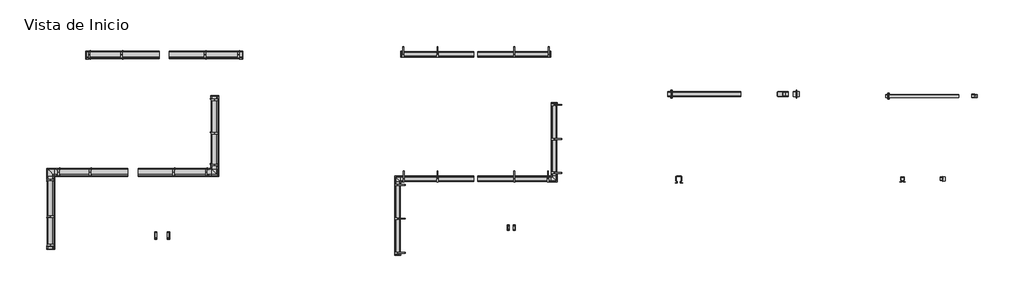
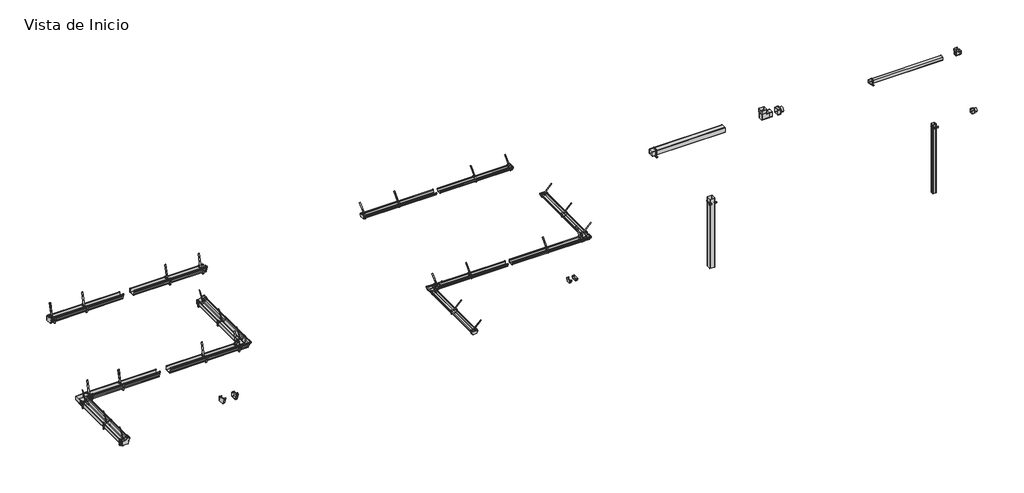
# One storey, incomplete: 96 pipe fittings.
"""IFC4 building model written with IfcOpenShell, lengths in millimetres."""

from ifc_helpers import new_model, si_unit, origin, place, context, project, spatial, transform, mapped, element, save
from components import var_52457260, var_4cc623fb, var_6d9a4e36, var_03249e51, var_4f1b463e, var_f23e036e, var_7115812f, var_41f675c7, var_76e6487b, var_775c7385, var_95f52222, var_f97e31ab, var_05ff5e77, var_66918e25, var_a2d437c5, var_36fa4123, var_11f69991, var_6b851b41, var_1a944b97, var_0d280a64, var_cdb6bf59, var_3a2b953e, var_3e40efbc, var_d3a71fb1, var_498e2f51, var_6dfbb502, var_9b596f50, var_332e4873

model = new_model("IFC4")

# Units and contexts
model_context = context("Model", 3, world=origin())
ifc_project = project(units=[si_unit("LENGTHUNIT", "METRE", prefix="MILLI")], contexts=[model_context])

# Site, building, storey
site = spatial("IfcSite", under=ifc_project)
building = spatial("IfcBuilding", under=site)
storey = spatial("IfcBuildingStorey", under=building, Name="Vista de Inicio", Elevation=0.0)

# Pipe fittings
placement = place(None, origin())
var_shape = var_52457260(model_context)
element("IfcPipeFitting", 1, ObjectType="PavcoWavin_UnionesDeTuberia_Canal Amazona_Tapa Izquierda Externa : Var.", at=placement, inside=storey, context=model_context, shape_type="MappedRepresentation", body=[
    mapped(var_shape, transform((-2478.4051425, 598.9276324, 0.0), x_axis=(0.0, 1.0, 0.0), y_axis=(-1.0, 0.0, 0.0), z_axis=(0.0, 0.0, 1.0))),
])
var_2_shape = var_4cc623fb(model_context)
element("IfcPipeFitting", 2, ObjectType="PavcoWavin_UnionesDeTuberia_Canal Amazona_Tapa Derecha Externa : Var.", at=placement, inside=storey, context=model_context, shape_type="MappedRepresentation", body=[
    mapped(var_2_shape, transform((889.7565373, 3648.9312367, 0.0), x_axis=(0.0, 1.0, 0.0), y_axis=(-1.0, 0.0, 0.0), z_axis=(0.0, 0.0, 1.0))),
])
var_3_shape = var_6d9a4e36(model_context)
element("IfcPipeFitting", 3, ObjectType="PavcoWavin_UnionesDeTuberia_ZCanal Amazona_Unión Esquina Interna_NoUsarUnion : Var.", at=placement, inside=storey, context=model_context, shape_type="MappedRepresentation", body=[
    mapped(var_3_shape, transform((-2478.2059963, 1979.9276324, -6.5234375), x_axis=(0.0, 1.0, 0.0), y_axis=(-1.0, 0.0, 0.0), z_axis=(0.0, 0.0, 1.0))),
])
var_4_shape = var_03249e51(model_context)
element("IfcPipeFitting", 4, ObjectType="PavcoWavin_UnionesDeTuberia_ZCanal Amazona_Soporte_NoUsarUnion : Var.", at=placement, inside=storey, context=model_context, shape_type="MappedRepresentation", body=[
    mapped(var_4_shape, transform((69.8595706, 2140.9301284, -18.59375), x_axis=(1.0, 0.0, 0.0), y_axis=(0.0, 1.0, 0.0), z_axis=(0.0, 0.0, 1.0))),
])
element("IfcPipeFitting", 5, ObjectType="PavcoWavin_UnionesDeTuberia_ZCanal Amazona_Soporte_NoUsarUnion : Var.", at=placement, inside=storey, context=model_context, shape_type="MappedRepresentation", body=[
    mapped(var_4_shape, transform((715.3718272, 4557.2576564, -18.59375), x_axis=(1.0, 0.0, 0.0), y_axis=(0.0, 1.0, 0.0), z_axis=(0.0, 0.0, 1.0))),
])
element("IfcPipeFitting", 6, ObjectType="PavcoWavin_UnionesDeTuberia_ZCanal Amazona_Soporte_NoUsarUnion : Var.", at=placement, inside=storey, context=model_context, shape_type="MappedRepresentation", body=[
    mapped(var_4_shape, transform((743.0595706, 2140.9301284, -18.59375), x_axis=(1.0, 0.0, 0.0), y_axis=(0.0, 1.0, 0.0), z_axis=(0.0, 0.0, 1.0))),
])
element("IfcPipeFitting", 7, ObjectType="PavcoWavin_UnionesDeTuberia_ZCanal Amazona_Soporte_NoUsarUnion : Var.", at=placement, inside=storey, context=model_context, shape_type="MappedRepresentation", body=[
    mapped(var_4_shape, transform((-998.6328859, 4557.2576564, -19.9609375), x_axis=(1.0, 0.0, 0.0), y_axis=(0.0, 1.0, 0.0), z_axis=(0.0, 0.0, 1.0))),
])
element("IfcPipeFitting", 8, ObjectType="PavcoWavin_UnionesDeTuberia_ZCanal Amazona_Soporte_NoUsarUnion : Var.", at=placement, inside=storey, context=model_context, shape_type="MappedRepresentation", body=[
    mapped(var_4_shape, transform((-1661.8328859, 4557.2576564, -19.9609375), x_axis=(1.0, 0.0, 0.0), y_axis=(0.0, 1.0, 0.0), z_axis=(0.0, 0.0, 1.0))),
])
element("IfcPipeFitting", 9, ObjectType="PavcoWavin_UnionesDeTuberia_ZCanal Amazona_Soporte_NoUsarUnion : Var.", at=placement, inside=storey, context=model_context, shape_type="MappedRepresentation", body=[
    mapped(var_4_shape, transform((-1644.1451425, 2140.9301284, -19.9609375), x_axis=(1.0, 0.0, 0.0), y_axis=(0.0, 1.0, 0.0), z_axis=(0.0, 0.0, 1.0))),
])
element("IfcPipeFitting", 10, ObjectType="PavcoWavin_UnionesDeTuberia_ZCanal Amazona_Soporte_NoUsarUnion : Var.", at=placement, inside=storey, context=model_context, shape_type="MappedRepresentation", body=[
    mapped(var_4_shape, transform((-2292.3451425, 2140.9301284, -19.9609375), x_axis=(1.0, 0.0, 0.0), y_axis=(0.0, 1.0, 0.0), z_axis=(0.0, 0.0, 1.0))),
])
element("IfcPipeFitting", 11, ObjectType="PavcoWavin_UnionesDeTuberia_ZCanal Amazona_Soporte_NoUsarUnion : Var.", at=placement, inside=storey, context=model_context, shape_type="MappedRepresentation", body=[
    mapped(var_4_shape, transform((889.5995706, 2941.1326243, -18.59375), x_axis=(0.0, 1.0, 0.0), y_axis=(-1.0, 0.0, 0.0), z_axis=(0.0, 0.0, 1.0))),
])
element("IfcPipeFitting", 12, ObjectType="PavcoWavin_UnionesDeTuberia_ZCanal Amazona_Soporte_NoUsarUnion : Var.", at=placement, inside=storey, context=model_context, shape_type="MappedRepresentation", body=[
    mapped(var_4_shape, transform((889.5995706, 3629.3326243, -18.59375), x_axis=(0.0, 1.0, 0.0), y_axis=(-1.0, 0.0, 0.0), z_axis=(0.0, 0.0, 1.0))),
])
element("IfcPipeFitting", 13, ObjectType="PavcoWavin_UnionesDeTuberia_ZCanal Amazona_Soporte_NoUsarUnion : Var.", at=placement, inside=storey, context=model_context, shape_type="MappedRepresentation", body=[
    mapped(var_4_shape, transform((889.5995706, 2292.9326243, -18.59375), x_axis=(0.0, 1.0, 0.0), y_axis=(-1.0, 0.0, 0.0), z_axis=(0.0, 0.0, 1.0))),
])
element("IfcPipeFitting", 14, ObjectType="PavcoWavin_UnionesDeTuberia_ZCanal Amazona_Soporte_NoUsarUnion : Var.", at=placement, inside=storey, context=model_context, shape_type="MappedRepresentation", body=[
    mapped(var_4_shape, transform((-2478.3476384, 1935.3276324, -20.0), x_axis=(0.0, 1.0, 0.0), y_axis=(-1.0, 0.0, 0.0), z_axis=(0.0, 0.0, 1.0))),
])
element("IfcPipeFitting", 15, ObjectType="PavcoWavin_UnionesDeTuberia_ZCanal Amazona_Soporte_NoUsarUnion : Var.", at=placement, inside=storey, context=model_context, shape_type="MappedRepresentation", body=[
    mapped(var_4_shape, transform((-2478.3476384, 1185.3276324, -20.0), x_axis=(0.0, 1.0, 0.0), y_axis=(-1.0, 0.0, 0.0), z_axis=(0.0, 0.0, 1.0))),
])
element("IfcPipeFitting", 16, ObjectType="PavcoWavin_UnionesDeTuberia_ZCanal Amazona_Soporte_NoUsarUnion : Var.", at=placement, inside=storey, context=model_context, shape_type="MappedRepresentation", body=[
    mapped(var_4_shape, transform((-2478.3476384, 598.9276324, -20.0), x_axis=(0.0, 1.0, 0.0), y_axis=(-1.0, 0.0, 0.0), z_axis=(0.0, 0.0, 1.0))),
])
element("IfcPipeFitting", 17, ObjectType="PavcoWavin_UnionesDeTuberia_ZCanal Amazona_Soporte_NoUsarUnion : Var.", at=placement, inside=storey, context=model_context, shape_type="MappedRepresentation", body=[
    mapped(var_4_shape, transform((1403.5718272, 4557.2576564, -18.59375), x_axis=(1.0, 0.0, 0.0), y_axis=(0.0, 1.0, 0.0), z_axis=(0.0, 0.0, 1.0))),
])
var_5_shape = var_4f1b463e(model_context)
element("IfcPipeFitting", 18, ObjectType="PavcoWavin_UnionesDeTuberia_ZCanal Amazona_Soporte Metálico_NoUsarUnion : Var.", at=placement, inside=storey, context=model_context, shape_type="MappedRepresentation", body=[
    mapped(var_5_shape, transform((69.8595706, 2121.5903246, 200.1847911), x_axis=(-1.0, 0.0, 0.0), y_axis=(0.0, -1.0, 0.0), z_axis=(0.0, 0.0, 1.0))),
])
element("IfcPipeFitting", 19, ObjectType="PavcoWavin_UnionesDeTuberia_ZCanal Amazona_Soporte Metálico_NoUsarUnion : Var.", at=placement, inside=storey, context=model_context, shape_type="MappedRepresentation", body=[
    mapped(var_5_shape, transform((743.5995706, 2121.5903246, 200.1847911), x_axis=(-1.0, 0.0, 0.0), y_axis=(0.0, -1.0, 0.0), z_axis=(0.0, 0.0, 1.0))),
])
element("IfcPipeFitting", 20, ObjectType="PavcoWavin_UnionesDeTuberia_ZCanal Amazona_Soporte Metálico_NoUsarUnion : Var.", at=placement, inside=storey, context=model_context, shape_type="MappedRepresentation", body=[
    mapped(var_5_shape, transform((908.95151, 2941.1326243, 200.3410411), x_axis=(0.0, -1.0, 0.0), y_axis=(1.0, 0.0, 0.0), z_axis=(0.0, 0.0, 1.0))),
])
element("IfcPipeFitting", 21, ObjectType="PavcoWavin_UnionesDeTuberia_ZCanal Amazona_Soporte Metálico_NoUsarUnion : Var.", at=placement, inside=storey, context=model_context, shape_type="MappedRepresentation", body=[
    mapped(var_5_shape, transform((908.95151, 3629.3326243, 200.3410411), x_axis=(0.0, -1.0, 0.0), y_axis=(1.0, 0.0, 0.0), z_axis=(0.0, 0.0, 1.0))),
])
element("IfcPipeFitting", 22, ObjectType="PavcoWavin_UnionesDeTuberia_ZCanal Amazona_Soporte Metálico_NoUsarUnion : Var.", at=placement, inside=storey, context=model_context, shape_type="MappedRepresentation", body=[
    mapped(var_5_shape, transform((908.95151, 2292.9326243, 200.1847911), x_axis=(0.0, -1.0, 0.0), y_axis=(1.0, 0.0, 0.0), z_axis=(0.0, 0.0, 1.0))),
])
element("IfcPipeFitting", 23, ObjectType="PavcoWavin_UnionesDeTuberia_ZCanal Amazona_Soporte Metálico_NoUsarUnion : Var.", at=placement, inside=storey, context=model_context, shape_type="MappedRepresentation", body=[
    mapped(var_5_shape, transform((715.3718272, 4537.9178527, 200.1847911), x_axis=(-1.0, 0.0, 0.0), y_axis=(0.0, -1.0, 0.0), z_axis=(0.0, 0.0, 1.0))),
])
element("IfcPipeFitting", 24, ObjectType="PavcoWavin_UnionesDeTuberia_ZCanal Amazona_Soporte Metálico_NoUsarUnion : Var.", at=placement, inside=storey, context=model_context, shape_type="MappedRepresentation", body=[
    mapped(var_5_shape, transform((1403.5718272, 4537.9178527, 200.1847911), x_axis=(-1.0, 0.0, 0.0), y_axis=(0.0, -1.0, 0.0), z_axis=(0.0, 0.0, 1.0))),
])
var_6_shape = var_f23e036e(model_context)
element("IfcPipeFitting", 25, ObjectType="PavcoWavin_UnionesDeTuberia_ZCanal Amazona_NoUsarUnion : Var.", at=placement, inside=storey, context=model_context, shape_type="MappedRepresentation", body=[
    mapped(var_6_shape, transform((-670.3404294, 2140.9920264, 1.3427734), x_axis=(1.0, 0.0, 0.0), y_axis=(0.0, 1.0, 0.0), z_axis=(0.0, 0.0, 1.0))),
])
element("IfcPipeFitting", 26, ObjectType="PavcoWavin_UnionesDeTuberia_ZCanal Amazona_NoUsarUnion : Var.", at=placement, inside=storey, context=model_context, shape_type="MappedRepresentation", body=[
    mapped(var_6_shape, transform((-24.8281728, 4557.3195544, 1.3427734), x_axis=(1.0, 0.0, 0.0), y_axis=(0.0, 1.0, 0.0), z_axis=(0.0, 0.0, 1.0))),
])
element("IfcPipeFitting", 27, ObjectType="PavcoWavin_UnionesDeTuberia_ZCanal Amazona_NoUsarUnion : Var.", at=placement, inside=storey, context=model_context, shape_type="MappedRepresentation", body=[
    mapped(var_6_shape, transform((-1738.8328859, 4557.3195544, 0.0), x_axis=(1.0, 0.0, 0.0), y_axis=(0.0, 1.0, 0.0), z_axis=(0.0, 0.0, 1.0))),
])
element("IfcPipeFitting", 28, ObjectType="PavcoWavin_UnionesDeTuberia_ZCanal Amazona_NoUsarUnion : Var.", at=placement, inside=storey, context=model_context, shape_type="MappedRepresentation", body=[
    mapped(var_6_shape, transform((-2384.3451425, 2140.9920264, 0.0), x_axis=(1.0, 0.0, 0.0), y_axis=(0.0, 1.0, 0.0), z_axis=(0.0, 0.0, 1.0))),
])
element("IfcPipeFitting", 29, ObjectType="PavcoWavin_UnionesDeTuberia_ZCanal Amazona_NoUsarUnion : Var.", at=placement, inside=storey, context=model_context, shape_type="MappedRepresentation", body=[
    mapped(var_6_shape, transform((889.5995706, 2200.9326243, 1.3427734), x_axis=(0.0, 1.0, 0.0), y_axis=(-1.0, 0.0, 0.0), z_axis=(0.0, 0.0, 1.0))),
])
element("IfcPipeFitting", 30, ObjectType="PavcoWavin_UnionesDeTuberia_ZCanal Amazona_NoUsarUnion : Var.", at=placement, inside=storey, context=model_context, shape_type="MappedRepresentation", body=[
    mapped(var_6_shape, transform((-2478.4095364, 546.9276324, -0.0195312), x_axis=(0.0, 1.0, 0.0), y_axis=(-1.0, 0.0, 0.0), z_axis=(0.0, 0.0, 1.0))),
])
element("IfcPipeFitting", 31, ObjectType="PavcoWavin_UnionesDeTuberia_ZCanal Amazona_Tapa Derecha Externa_NoUsarUnion : Var.", at=placement, inside=storey, context=model_context, shape_type="MappedRepresentation", body=[
    mapped(var_2_shape, transform((1423.1718272, 4556.8221846, -4.140625), x_axis=(1.0, 0.0, 0.0), y_axis=(0.0, 1.0, 0.0), z_axis=(0.0, 0.0, 1.0))),
])
var_7_shape = var_7115812f(model_context)
element("IfcPipeFitting", 32, ObjectType="PavcoWavin_UnionesDeTuberia_ZCanal Amazona_Tapa Izquierda Externa_NoUsarUnion : Var.", at=placement, inside=storey, context=model_context, shape_type="MappedRepresentation", body=[
    mapped(var_7_shape, transform((-1686.8328859, 4556.8221846, -5.46875), x_axis=(-1.0, 0.0, 0.0), y_axis=(0.0, -1.0, 0.0), z_axis=(0.0, 0.0, 1.0))),
])
var_8_shape = var_41f675c7(model_context)
element("IfcPipeFitting", 33, ObjectType="PavcoWavin_UnionesDeTuberia_ZBajante Tradicional_Codo_NoUsarUnion : Var.", at=placement, inside=storey, context=model_context, shape_type="MappedRepresentation", body=[
    mapped(var_8_shape, transform((16487.8710633, 3696.9326243, 0.0), x_axis=(0.0, 0.0, -1.0), y_axis=(1.0, 0.0, 0.0), z_axis=(0.0, -1.0, 0.0))),
])
var_9_shape = var_76e6487b(model_context)
element("IfcPipeFitting", 34, ObjectType="PavcoWavin_UnionesDeTuberia_ZCanal Amazona_Unión Esquina Externa_NoUsarUnion : Var.", at=placement, inside=storey, context=model_context, shape_type="MappedRepresentation", body=[
    mapped(var_9_shape, transform((762.6589726, 2140.7884862, -5.15625), x_axis=(1.0, 0.0, 0.0), y_axis=(0.0, 1.0, 0.0), z_axis=(0.0, 0.0, 1.0))),
])
var_10_shape = var_775c7385(model_context)
element("IfcPipeFitting", 35, ObjectType="PavcoWavin_UnionesDeTuberia_ZCanal Amazona_Soporte Metálico_NoUsarUnion : Var.", at=placement, inside=storey, context=model_context, shape_type="MappedRepresentation", body=[
    mapped(var_10_shape, transform((-1023.6328859, 4537.909093, 199.1015625), x_axis=(1.0, 0.0, 0.0), y_axis=(0.0, 1.0, 0.0), z_axis=(0.0, 0.0, 1.0))),
])
element("IfcPipeFitting", 36, ObjectType="PavcoWavin_UnionesDeTuberia_ZCanal Amazona_Soporte Metálico_NoUsarUnion : Var.", at=placement, inside=storey, context=model_context, shape_type="MappedRepresentation", body=[
    mapped(var_10_shape, transform((-1686.8328859, 4537.909093, 199.1015625), x_axis=(1.0, 0.0, 0.0), y_axis=(0.0, 1.0, 0.0), z_axis=(0.0, 0.0, 1.0))),
])
element("IfcPipeFitting", 37, ObjectType="PavcoWavin_UnionesDeTuberia_ZCanal Amazona_Soporte Metálico_NoUsarUnion : Var.", at=placement, inside=storey, context=model_context, shape_type="MappedRepresentation", body=[
    mapped(var_10_shape, transform((-1669.1451425, 2121.5815649, 199.1015625), x_axis=(1.0, 0.0, 0.0), y_axis=(0.0, 1.0, 0.0), z_axis=(0.0, 0.0, 1.0))),
])
element("IfcPipeFitting", 38, ObjectType="PavcoWavin_UnionesDeTuberia_ZCanal Amazona_Soporte Metálico_NoUsarUnion : Var.", at=placement, inside=storey, context=model_context, shape_type="MappedRepresentation", body=[
    mapped(var_10_shape, transform((-2317.3451425, 2121.5815649, 199.1015625), x_axis=(1.0, 0.0, 0.0), y_axis=(0.0, 1.0, 0.0), z_axis=(0.0, 0.0, 1.0))),
])
element("IfcPipeFitting", 39, ObjectType="PavcoWavin_UnionesDeTuberia_ZCanal Amazona_Soporte Metálico_NoUsarUnion : Var.", at=placement, inside=storey, context=model_context, shape_type="MappedRepresentation", body=[
    mapped(var_10_shape, transform((-2459.0139475, 1954.9276324, 198.984375), x_axis=(0.0, 1.0, 0.0), y_axis=(-1.0, 0.0, 0.0), z_axis=(0.0, 0.0, 1.0))),
])
element("IfcPipeFitting", 40, ObjectType="PavcoWavin_UnionesDeTuberia_ZCanal Amazona_Soporte Metálico_NoUsarUnion : Var.", at=placement, inside=storey, context=model_context, shape_type="MappedRepresentation", body=[
    mapped(var_10_shape, transform((-2459.0139475, 1204.9276324, 198.984375), x_axis=(0.0, 1.0, 0.0), y_axis=(-1.0, 0.0, 0.0), z_axis=(0.0, 0.0, 1.0))),
])
element("IfcPipeFitting", 41, ObjectType="PavcoWavin_UnionesDeTuberia_ZCanal Amazona_Soporte Metálico_NoUsarUnion : Var.", at=placement, inside=storey, context=model_context, shape_type="MappedRepresentation", body=[
    mapped(var_10_shape, transform((-2459.0139475, 618.5276324, 198.984375), x_axis=(0.0, 1.0, 0.0), y_axis=(-1.0, 0.0, 0.0), z_axis=(0.0, 0.0, 1.0))),
])
var_11_shape = var_95f52222(model_context)
element("IfcPipeFitting", 42, ObjectType="PavcoWavin_UnionesDeTuberia_ZCanal Raingo_Soporte_NoUsarUnion : Var.", at=placement, inside=storey, context=model_context, shape_type="MappedRepresentation", body=[
    mapped(var_11_shape, transform((4662.960448, 1867.2204486, -19.4666751), x_axis=(0.0, 1.0, 0.0), y_axis=(-1.0, 0.0, 0.0), z_axis=(0.0, 0.0, 1.0))),
])
element("IfcPipeFitting", 43, ObjectType="PavcoWavin_UnionesDeTuberia_ZCanal Raingo_Soporte_NoUsarUnion : Var.", at=placement, inside=storey, context=model_context, shape_type="MappedRepresentation", body=[
    mapped(var_11_shape, transform((4662.960448, 1174.4954486, -19.4666751), x_axis=(0.0, 1.0, 0.0), y_axis=(-1.0, 0.0, 0.0), z_axis=(0.0, 0.0, 1.0))),
])
element("IfcPipeFitting", 44, ObjectType="PavcoWavin_UnionesDeTuberia_ZCanal Raingo_Soporte_NoUsarUnion : Var.", at=placement, inside=storey, context=model_context, shape_type="MappedRepresentation", body=[
    mapped(var_11_shape, transform((4662.960448, 468.2704486, -19.4666751), x_axis=(0.0, 1.0, 0.0), y_axis=(-1.0, 0.0, 0.0), z_axis=(0.0, 0.0, 1.0))),
])
element("IfcPipeFitting", 45, ObjectType="PavcoWavin_UnionesDeTuberia_ZCanal Raingo_Soporte_NoUsarUnion : Var.", at=placement, inside=storey, context=model_context, shape_type="MappedRepresentation", body=[
    mapped(var_11_shape, transform((7059.310448, 4557.5847642, -19.4666751), x_axis=(-1.0, 0.0, 0.0), y_axis=(0.0, -1.0, 0.0), z_axis=(0.0, 0.0, 1.0))),
])
element("IfcPipeFitting", 46, ObjectType="PavcoWavin_UnionesDeTuberia_ZCanal Raingo_Soporte_NoUsarUnion : Var.", at=placement, inside=storey, context=model_context, shape_type="MappedRepresentation", body=[
    mapped(var_11_shape, transform((7765.535448, 4557.5847642, -19.4666751), x_axis=(-1.0, 0.0, 0.0), y_axis=(0.0, -1.0, 0.0), z_axis=(0.0, 0.0, 1.0))),
])
element("IfcPipeFitting", 47, ObjectType="PavcoWavin_UnionesDeTuberia_ZCanal Raingo_Soporte_NoUsarUnion : Var.", at=placement, inside=storey, context=model_context, shape_type="MappedRepresentation", body=[
    mapped(var_11_shape, transform((7059.310448, 1991.8454486, -19.4666751), x_axis=(-1.0, 0.0, 0.0), y_axis=(0.0, -1.0, 0.0), z_axis=(0.0, 0.0, 1.0))),
])
element("IfcPipeFitting", 48, ObjectType="PavcoWavin_UnionesDeTuberia_ZCanal Raingo_Soporte_NoUsarUnion : Var.", at=placement, inside=storey, context=model_context, shape_type="MappedRepresentation", body=[
    mapped(var_11_shape, transform((7752.035448, 1991.8454486, -19.4666751), x_axis=(-1.0, 0.0, 0.0), y_axis=(0.0, -1.0, 0.0), z_axis=(0.0, 0.0, 1.0))),
])
var_12_shape = var_f97e31ab(model_context)
element("IfcPipeFitting", 49, ObjectType="PavcoWavin_UnionesDeTuberia_ZCanal Raingo_Soporte Metálico_NoUsarUnion : Var.", at=placement, inside=storey, context=model_context, shape_type="MappedRepresentation", body=[
    mapped(var_12_shape, transform((4662.960448, 1867.2204486, 99.354259), x_axis=(0.0, 1.0, 0.0), y_axis=(-1.0, 0.0, 0.0), z_axis=(0.0, 0.0, 1.0))),
])
element("IfcPipeFitting", 50, ObjectType="PavcoWavin_UnionesDeTuberia_ZCanal Raingo_Soporte Metálico_NoUsarUnion : Var.", at=placement, inside=storey, context=model_context, shape_type="MappedRepresentation", body=[
    mapped(var_12_shape, transform((4662.960448, 1174.4954486, 99.354259), x_axis=(0.0, 1.0, 0.0), y_axis=(-1.0, 0.0, 0.0), z_axis=(0.0, 0.0, 1.0))),
])
element("IfcPipeFitting", 51, ObjectType="PavcoWavin_UnionesDeTuberia_ZCanal Raingo_Soporte Metálico_NoUsarUnion : Var.", at=placement, inside=storey, context=model_context, shape_type="MappedRepresentation", body=[
    mapped(var_12_shape, transform((4662.960448, 468.2754486, 99.354259), x_axis=(0.0, 1.0, 0.0), y_axis=(-1.0, 0.0, 0.0), z_axis=(0.0, 0.0, 1.0))),
])
element("IfcPipeFitting", 52, ObjectType="PavcoWavin_UnionesDeTuberia_ZCanal Raingo_Soporte Metálico_NoUsarUnion : Var.", at=placement, inside=storey, context=model_context, shape_type="MappedRepresentation", body=[
    mapped(var_12_shape, transform((7059.310448, 4557.3459852, 99.354259), x_axis=(-1.0, 0.0, 0.0), y_axis=(0.0, -1.0, 0.0), z_axis=(0.0, 0.0, 1.0))),
])
element("IfcPipeFitting", 53, ObjectType="PavcoWavin_UnionesDeTuberia_ZCanal Raingo_Soporte Metálico_NoUsarUnion : Var.", at=placement, inside=storey, context=model_context, shape_type="MappedRepresentation", body=[
    mapped(var_12_shape, transform((7765.530448, 4557.3459852, 99.354259), x_axis=(-1.0, 0.0, 0.0), y_axis=(0.0, -1.0, 0.0), z_axis=(0.0, 0.0, 1.0))),
])
element("IfcPipeFitting", 54, ObjectType="PavcoWavin_UnionesDeTuberia_ZCanal Raingo_Soporte Metálico_NoUsarUnion : Var.", at=placement, inside=storey, context=model_context, shape_type="MappedRepresentation", body=[
    mapped(var_12_shape, transform((7059.310448, 1991.6066695, 99.354259), x_axis=(-1.0, 0.0, 0.0), y_axis=(0.0, -1.0, 0.0), z_axis=(0.0, 0.0, 1.0))),
])
element("IfcPipeFitting", 55, ObjectType="PavcoWavin_UnionesDeTuberia_ZCanal Raingo_Soporte Metálico_NoUsarUnion : Var.", at=placement, inside=storey, context=model_context, shape_type="MappedRepresentation", body=[
    mapped(var_12_shape, transform((7752.035448, 1991.6066695, 99.354259), x_axis=(-1.0, 0.0, 0.0), y_axis=(0.0, -1.0, 0.0), z_axis=(0.0, 0.0, 1.0))),
])
var_13_shape = var_05ff5e77(model_context)
element("IfcPipeFitting", 56, ObjectType="PavcoWavin_UnionesDeTuberia_ZCanal Raingo_Soporte Metálico_NoUsarUnion : Var.", at=placement, inside=storey, context=model_context, shape_type="MappedRepresentation", body=[
    mapped(var_13_shape, transform((5480.310448, 1991.6066695, 99.354259), x_axis=(1.0, 0.0, 0.0), y_axis=(0.0, 1.0, 0.0), z_axis=(0.0, 0.0, 1.0))),
])
element("IfcPipeFitting", 57, ObjectType="PavcoWavin_UnionesDeTuberia_ZCanal Raingo_Soporte Metálico_NoUsarUnion : Var.", at=placement, inside=storey, context=model_context, shape_type="MappedRepresentation", body=[
    mapped(var_13_shape, transform((4787.585448, 1991.6066695, 99.354259), x_axis=(1.0, 0.0, 0.0), y_axis=(0.0, 1.0, 0.0), z_axis=(0.0, 0.0, 1.0))),
])
element("IfcPipeFitting", 58, ObjectType="PavcoWavin_UnionesDeTuberia_ZCanal Raingo_Soporte Metálico_NoUsarUnion : Var.", at=placement, inside=storey, context=model_context, shape_type="MappedRepresentation", body=[
    mapped(var_13_shape, transform((5480.310448, 4557.3459852, 99.354259), x_axis=(1.0, 0.0, 0.0), y_axis=(0.0, 1.0, 0.0), z_axis=(0.0, 0.0, 1.0))),
])
element("IfcPipeFitting", 59, ObjectType="PavcoWavin_UnionesDeTuberia_ZCanal Raingo_Soporte Metálico_NoUsarUnion : Var.", at=placement, inside=storey, context=model_context, shape_type="MappedRepresentation", body=[
    mapped(var_13_shape, transform((4774.090448, 4557.3459852, 99.354259), x_axis=(1.0, 0.0, 0.0), y_axis=(0.0, 1.0, 0.0), z_axis=(0.0, 0.0, 1.0))),
])
element("IfcPipeFitting", 60, ObjectType="PavcoWavin_UnionesDeTuberia_ZCanal Raingo_Soporte Metálico_NoUsarUnion : Var.", at=placement, inside=storey, context=model_context, shape_type="MappedRepresentation", body=[
    mapped(var_13_shape, transform((7876.660448, 2116.4704486, 99.354259), x_axis=(0.0, -1.0, 0.0), y_axis=(1.0, 0.0, 0.0), z_axis=(0.0, 0.0, 1.0))),
])
element("IfcPipeFitting", 61, ObjectType="PavcoWavin_UnionesDeTuberia_ZCanal Raingo_Soporte Metálico_NoUsarUnion : Var.", at=placement, inside=storey, context=model_context, shape_type="MappedRepresentation", body=[
    mapped(var_13_shape, transform((7876.660448, 2809.1954486, 99.354259), x_axis=(0.0, -1.0, 0.0), y_axis=(1.0, 0.0, 0.0), z_axis=(0.0, 0.0, 1.0))),
])
element("IfcPipeFitting", 62, ObjectType="PavcoWavin_UnionesDeTuberia_ZCanal Raingo_Soporte Metálico_NoUsarUnion : Var.", at=placement, inside=storey, context=model_context, shape_type="MappedRepresentation", body=[
    mapped(var_13_shape, transform((7876.660448, 3515.4154486, 99.354259), x_axis=(0.0, -1.0, 0.0), y_axis=(1.0, 0.0, 0.0), z_axis=(0.0, 0.0, 1.0))),
])
var_14_shape = var_66918e25(model_context)
element("IfcPipeFitting", 63, ObjectType="PavcoWavin_UnionesDeTuberia_ZCanal Raingo_Unión Esquina_NoUsarUnion : Var.", at=placement, inside=storey, context=model_context, shape_type="MappedRepresentation", body=[
    mapped(var_14_shape, transform((4773.310448, 1991.8454486, -6.5), x_axis=(-1.0, 0.0, 0.0), y_axis=(0.0, -1.0, 0.0), z_axis=(0.0, 0.0, 1.0))),
])
element("IfcPipeFitting", 64, ObjectType="PavcoWavin_UnionesDeTuberia_ZCanal Raingo_Unión Esquina_NoUsarUnion : Var.", at=placement, inside=storey, context=model_context, shape_type="MappedRepresentation", body=[
    mapped(var_14_shape, transform((7766.310448, 1991.8454486, -6.5), x_axis=(1.0, 0.0, 0.0), y_axis=(0.0, 1.0, 0.0), z_axis=(0.0, 0.0, 1.0))),
])
var_15_shape = var_a2d437c5(model_context)
element("IfcPipeFitting", 65, ObjectType="PavcoWavin_UnionesDeTuberia_Canal Raingo_Tapa Externa : Var.", at=placement, inside=storey, context=model_context, shape_type="MappedRepresentation", body=[
    mapped(var_15_shape, transform((4662.960448, 453.997173, -6.5), x_axis=(0.0, -1.0, 0.0), y_axis=(1.0, 0.0, 0.0), z_axis=(0.0, 0.0, 1.0))),
])
element("IfcPipeFitting", 66, ObjectType="PavcoWavin_UnionesDeTuberia_Canal Raingo_Tapa Externa : Var.", at=placement, inside=storey, context=model_context, shape_type="MappedRepresentation", body=[
    mapped(var_15_shape, transform((7876.660448, 3529.697173, -6.5), x_axis=(0.0, 1.0, 0.0), y_axis=(-1.0, 0.0, 0.0), z_axis=(0.0, 0.0, 1.0))),
])
var_16_shape = var_36fa4123(model_context)
element("IfcPipeFitting", 67, ObjectType="PavcoWavin_UnionesDeTuberia_Canal Amazona_Tapa Izquierda Interna : Var.", at=placement, inside=storey, context=model_context, shape_type="MappedRepresentation", body=[
    mapped(var_16_shape, transform((-284.3451425, 840.9920264, -0.4974632), x_axis=(1.0, 0.0, 0.0), y_axis=(0.0, 1.0, 0.0), z_axis=(0.0, 0.0, 1.0))),
])
var_17_shape = var_11f69991(model_context)
element("IfcPipeFitting", 68, ObjectType="PavcoWavin_UnionesDeTuberia_Canal Amazona_Tapa Derecha Interna : Var.", at=placement, inside=storey, context=model_context, shape_type="MappedRepresentation", body=[
    mapped(var_17_shape, transform((-70.3404294, 840.9920264, -0.4974632), x_axis=(1.0, 0.0, 0.0), y_axis=(0.0, 1.0, 0.0), z_axis=(0.0, 0.0, 1.0))),
])
var_18_shape = var_6b851b41(model_context)
element("IfcPipeFitting", 69, ObjectType="PavcoWavin_UnionesDeTuberia_ZCanal Raingo_Tapa Externa_NoUsarUnion : Var.", at=placement, inside=storey, context=model_context, shape_type="MappedRepresentation", body=[
    mapped(var_18_shape, transform((7779.810448, 4557.5847642, -6.5), x_axis=(1.0, 0.0, 0.0), y_axis=(0.0, 1.0, 0.0), z_axis=(0.0, 0.0, 1.0))),
])
element("IfcPipeFitting", 70, ObjectType="PavcoWavin_UnionesDeTuberia_ZCanal Raingo_Tapa Externa_NoUsarUnion : Var.", at=placement, inside=storey, context=model_context, shape_type="MappedRepresentation", body=[
    mapped(var_18_shape, transform((4759.810448, 4557.5847642, -6.5), x_axis=(-1.0, 0.0, 0.0), y_axis=(0.0, -1.0, 0.0), z_axis=(0.0, 0.0, 1.0))),
])
var_19_shape = var_1a944b97(model_context)
element("IfcPipeFitting", 71, ObjectType="PavcoWavin_UnionesDeTuberia_ZCanal Raingo_Soporte_NoUsarUnion : Var.", at=placement, inside=storey, context=model_context, shape_type="MappedRepresentation", body=[
    mapped(var_19_shape, transform((5480.310448, 1991.8454486, -19.4666751), x_axis=(1.0, 0.0, 0.0), y_axis=(0.0, 1.0, 0.0), z_axis=(0.0, 0.0, 1.0))),
])
element("IfcPipeFitting", 72, ObjectType="PavcoWavin_UnionesDeTuberia_ZCanal Raingo_Soporte_NoUsarUnion : Var.", at=placement, inside=storey, context=model_context, shape_type="MappedRepresentation", body=[
    mapped(var_19_shape, transform((4787.585448, 1991.8454486, -19.4666751), x_axis=(1.0, 0.0, 0.0), y_axis=(0.0, 1.0, 0.0), z_axis=(0.0, 0.0, 1.0))),
])
element("IfcPipeFitting", 73, ObjectType="PavcoWavin_UnionesDeTuberia_ZCanal Raingo_Soporte_NoUsarUnion : Var.", at=placement, inside=storey, context=model_context, shape_type="MappedRepresentation", body=[
    mapped(var_19_shape, transform((5480.310448, 4557.5847642, -19.4666751), x_axis=(1.0, 0.0, 0.0), y_axis=(0.0, 1.0, 0.0), z_axis=(0.0, 0.0, 1.0))),
])
element("IfcPipeFitting", 74, ObjectType="PavcoWavin_UnionesDeTuberia_ZCanal Raingo_Soporte_NoUsarUnion : Var.", at=placement, inside=storey, context=model_context, shape_type="MappedRepresentation", body=[
    mapped(var_19_shape, transform((4774.085448, 4557.5847642, -19.4666751), x_axis=(1.0, 0.0, 0.0), y_axis=(0.0, 1.0, 0.0), z_axis=(0.0, 0.0, 1.0))),
])
element("IfcPipeFitting", 75, ObjectType="PavcoWavin_UnionesDeTuberia_ZCanal Raingo_Soporte_NoUsarUnion : Var.", at=placement, inside=storey, context=model_context, shape_type="MappedRepresentation", body=[
    mapped(var_19_shape, transform((7876.660448, 2116.4704486, -19.4666751), x_axis=(0.0, -1.0, 0.0), y_axis=(1.0, 0.0, 0.0), z_axis=(0.0, 0.0, 1.0))),
])
element("IfcPipeFitting", 76, ObjectType="PavcoWavin_UnionesDeTuberia_ZCanal Raingo_Soporte_NoUsarUnion : Var.", at=placement, inside=storey, context=model_context, shape_type="MappedRepresentation", body=[
    mapped(var_19_shape, transform((7876.660448, 2809.1954486, -19.4666751), x_axis=(0.0, -1.0, 0.0), y_axis=(1.0, 0.0, 0.0), z_axis=(0.0, 0.0, 1.0))),
])
element("IfcPipeFitting", 77, ObjectType="PavcoWavin_UnionesDeTuberia_ZCanal Raingo_Soporte_NoUsarUnion : Var.", at=placement, inside=storey, context=model_context, shape_type="MappedRepresentation", body=[
    mapped(var_19_shape, transform((7876.660448, 3515.4204486, -19.4666751), x_axis=(0.0, -1.0, 0.0), y_axis=(1.0, 0.0, 0.0), z_axis=(0.0, 0.0, 1.0))),
])
var_20_shape = var_0d280a64(model_context)
element("IfcPipeFitting", 78, ObjectType="PavcoWavin_UnionesDeTuberia_Canal Raingo_Tapa Interna : Var.", at=placement, inside=storey, context=model_context, shape_type="MappedRepresentation", body=[
    mapped(var_20_shape, transform((7037.7962849, 987.8682625, -2.5), x_axis=(1.0, 0.0, 0.0), y_axis=(0.0, 1.0, 0.0), z_axis=(0.0, 0.0, 1.0))),
])
element("IfcPipeFitting", 79, ObjectType="PavcoWavin_UnionesDeTuberia_Canal Raingo_Tapa Interna : Var.", at=placement, inside=storey, context=model_context, shape_type="MappedRepresentation", body=[
    mapped(var_20_shape, transform((6958.7962849, 987.8682625, -2.5), x_axis=(-1.0, 0.0, 0.0), y_axis=(0.0, -1.0, 0.0), z_axis=(0.0, 0.0, 1.0))),
])
var_21_shape = var_cdb6bf59(model_context)
element("IfcPipeFitting", 80, ObjectType="PavcoWavin_UnionesDeTuberia_ZBajante Tradicional_Soporte_NoUsarUnion : Var.", at=placement, inside=storey, context=model_context, shape_type="MappedRepresentation", body=[
    mapped(var_21_shape, transform((14732.0940347, 3696.9326243, 0.0), x_axis=(1.0, 0.0, 0.0), y_axis=(0.0, 1.0, 0.0), z_axis=(0.0, 0.0, 1.0))),
])
element("IfcPipeFitting", 81, ObjectType="PavcoWavin_UnionesDeTuberia_ZBajante Tradicional_Soporte_NoUsarUnion : Var.", at=placement, inside=storey, context=model_context, shape_type="MappedRepresentation", body=[
    mapped(var_21_shape, transform((15033.7118666, 1991.8454486, -43.3), x_axis=(0.0, 0.0, -1.0), y_axis=(-1.0, 0.0, 0.0), z_axis=(0.0, 1.0, 0.0))),
])
var_22_shape = var_3a2b953e(model_context)
element("IfcPipeFitting", 82, ObjectType="PavcoWavin_UnionesDeTuberia_ZBajante Tradicional_NoUsarUnion : Var.", at=placement, inside=storey, context=model_context, shape_type="MappedRepresentation", body=[
    mapped(var_22_shape, transform((14688.7940347, 3696.9326243, 0.0), x_axis=(1.0, 0.0, 0.0), y_axis=(0.0, 1.0, 0.0), z_axis=(0.0, 0.0, 1.0))),
])
element("IfcPipeFitting", 83, ObjectType="PavcoWavin_UnionesDeTuberia_ZBajante Tradicional_NoUsarUnion : Var.", at=placement, inside=storey, context=model_context, shape_type="MappedRepresentation", body=[
    mapped(var_22_shape, transform((15033.7118666, 1991.8454486, 0.0), x_axis=(0.0, 0.0, -1.0), y_axis=(-1.0, 0.0, 0.0), z_axis=(0.0, 1.0, 0.0))),
])
var_23_shape = var_3e40efbc(model_context)
element("IfcPipeFitting", 84, ObjectType="PavcoWavin_UnionesDeTuberia_ZBajante Rainmax_Soporte_NoUsarUnion : Var.", at=placement, inside=storey, context=model_context, shape_type="MappedRepresentation", body=[
    mapped(var_23_shape, transform((10278.7930189, 3736.9326243, 0.0), x_axis=(1.0, 0.0, 0.0), y_axis=(0.0, 1.0, 0.0), z_axis=(0.0, 0.0, 1.0))),
])
element("IfcPipeFitting", 85, ObjectType="PavcoWavin_UnionesDeTuberia_ZBajante Rainmax_Soporte_NoUsarUnion : Var.", at=placement, inside=storey, context=model_context, shape_type="MappedRepresentation", body=[
    mapped(var_23_shape, transform((10438.3567872, 1991.8454486, -68.8), x_axis=(0.0, 0.0, -1.0), y_axis=(-1.0, 0.0, 0.0), z_axis=(0.0, 1.0, 0.0))),
])
var_24_shape = var_d3a71fb1(model_context)
element("IfcPipeFitting", 86, ObjectType="PavcoWavin_UnionesDeTuberia_Bajante Tradicional_Adaptador : Var.", at=placement, inside=storey, context=model_context, shape_type="MappedRepresentation", body=[
    mapped(var_24_shape, transform((15804.9482801, 1991.8454486, 0.0), x_axis=(1.0, 0.0, 0.0), y_axis=(0.0, 1.0, 0.0), z_axis=(0.0, 0.0, 1.0))),
])
var_25_shape = var_498e2f51(model_context)
element("IfcPipeFitting", 87, ObjectType="PavcoWavin_UnionesDeTuberia_Bajante Rainmax_Adaptador : Var.", at=placement, inside=storey, context=model_context, shape_type="MappedRepresentation", body=[
    mapped(var_25_shape, transform((12856.4288844, 3736.9326243, 0.0), x_axis=(1.0, 0.0, 0.0), y_axis=(0.0, 1.0, 0.0), z_axis=(0.0, 0.0, 1.0))),
])
var_26_shape = var_6dfbb502(model_context)
element("IfcPipeFitting", 88, ObjectType="PavcoWavin_UnionesDeTuberia_ZBajante Rainmax_NoUsarUnion : Var.", at=placement, inside=storey, context=model_context, shape_type="MappedRepresentation", body=[
    mapped(var_26_shape, transform((10209.9930189, 3736.9326243, 0.0), x_axis=(1.0, 0.0, 0.0), y_axis=(0.0, 1.0, 0.0), z_axis=(0.0, 0.0, 1.0))),
])
element("IfcPipeFitting", 89, ObjectType="PavcoWavin_UnionesDeTuberia_ZBajante Rainmax_NoUsarUnion : Var.", at=placement, inside=storey, context=model_context, shape_type="MappedRepresentation", body=[
    mapped(var_26_shape, transform((10438.3567872, 1991.8454486, 0.0), x_axis=(0.0, 0.0, -1.0), y_axis=(-1.0, 0.0, 0.0), z_axis=(0.0, 1.0, 0.0))),
])
var_27_shape = var_9b596f50(model_context)
element("IfcPipeFitting", 90, ObjectType="PavcoWavin_UnionesDeTuberia_ZBajante Rainmax_Codo_NoUsarUnion : Var.", at=placement, inside=storey, context=model_context, shape_type="MappedRepresentation", body=[
    mapped(var_27_shape, transform((12518.2565002, 3736.9326243, 0.0), x_axis=(0.0, 0.0, -1.0), y_axis=(1.0, 0.0, 0.0), z_axis=(0.0, -1.0, 0.0))),
])
var_28_shape = var_332e4873(model_context)
element("IfcPipeFitting", 91, ObjectType="PavcoWavin_UnionesDeTuberia_ZCanal Raingo_NoUsarUnion : Var.", at=placement, inside=storey, context=model_context, shape_type="MappedRepresentation", body=[
    mapped(var_28_shape, transform((6230.310448, 1991.8454486, 0.0), x_axis=(-1.0, 0.0, 0.0), y_axis=(0.0, -1.0, 0.0), z_axis=(0.0, 0.0, 1.0))),
])
element("IfcPipeFitting", 92, ObjectType="PavcoWavin_UnionesDeTuberia_ZCanal Raingo_NoUsarUnion : Var.", at=placement, inside=storey, context=model_context, shape_type="MappedRepresentation", body=[
    mapped(var_28_shape, transform((4662.960448, 1924.4954486, 0.0), x_axis=(0.0, -1.0, 0.0), y_axis=(1.0, 0.0, 0.0), z_axis=(0.0, 0.0, 1.0))),
])
element("IfcPipeFitting", 93, ObjectType="PavcoWavin_UnionesDeTuberia_ZCanal Raingo_NoUsarUnion : Var.", at=placement, inside=storey, context=model_context, shape_type="MappedRepresentation", body=[
    mapped(var_28_shape, transform((6309.310448, 4557.5847642, 0.0), x_axis=(1.0, 0.0, 0.0), y_axis=(0.0, 1.0, 0.0), z_axis=(0.0, 0.0, 1.0))),
])
element("IfcPipeFitting", 94, ObjectType="PavcoWavin_UnionesDeTuberia_ZCanal Raingo_NoUsarUnion : Var.", at=placement, inside=storey, context=model_context, shape_type="MappedRepresentation", body=[
    mapped(var_28_shape, transform((6230.310448, 4557.5847642, 0.0), x_axis=(-1.0, 0.0, 0.0), y_axis=(0.0, -1.0, 0.0), z_axis=(0.0, 0.0, 1.0))),
])
element("IfcPipeFitting", 95, ObjectType="PavcoWavin_UnionesDeTuberia_ZCanal Raingo_NoUsarUnion : Var.", at=placement, inside=storey, context=model_context, shape_type="MappedRepresentation", body=[
    mapped(var_28_shape, transform((6309.310448, 1991.8454486, 0.0), x_axis=(1.0, 0.0, 0.0), y_axis=(0.0, 1.0, 0.0), z_axis=(0.0, 0.0, 1.0))),
])
element("IfcPipeFitting", 96, ObjectType="PavcoWavin_UnionesDeTuberia_ZCanal Raingo_NoUsarUnion : Var.", at=placement, inside=storey, context=model_context, shape_type="MappedRepresentation", body=[
    mapped(var_28_shape, transform((7876.660448, 3559.1954486, 0.0), x_axis=(0.0, -1.0, 0.0), y_axis=(1.0, 0.0, 0.0), z_axis=(0.0, 0.0, 1.0))),
])

save(model, "model.ifc")
